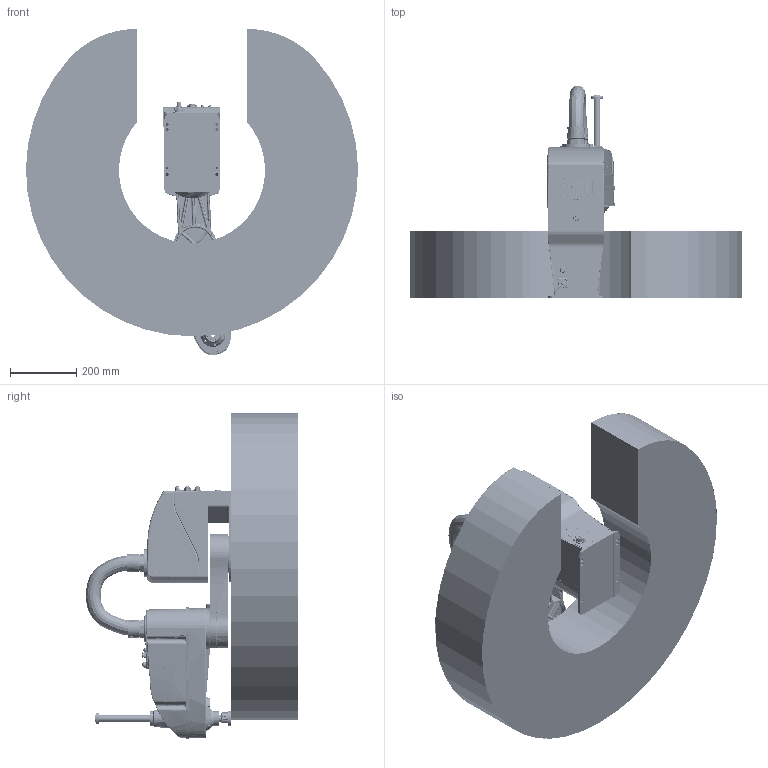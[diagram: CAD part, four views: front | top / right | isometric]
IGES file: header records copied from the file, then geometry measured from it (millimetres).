
Start section: SolidWorks IGES file using analytic representation for surfaces
Global section: file name: D:\PDM\QKM_PDM\01_SP研发\021AH6\05_对外发布模型\AH6-0500-0204-2000\IGS\AH6-0500-0204-2000-T0-2.0.0.IGS; native system: SolidWorks 2017; preprocessor: SolidWorks 2017; author: gsliang; date: 200423.155013; units: millimetre
Bounding box: 999.91 x 640.74 x 982.11 mm (x, y, z)
Surface area: 3081498.2 mm2 (no closed solid volume)
Topology: 0 solids, 0 shells, 6592 faces, 72664 edges, 72568 vertices
Faces by surface type: bspline 4884, revolution 1708
